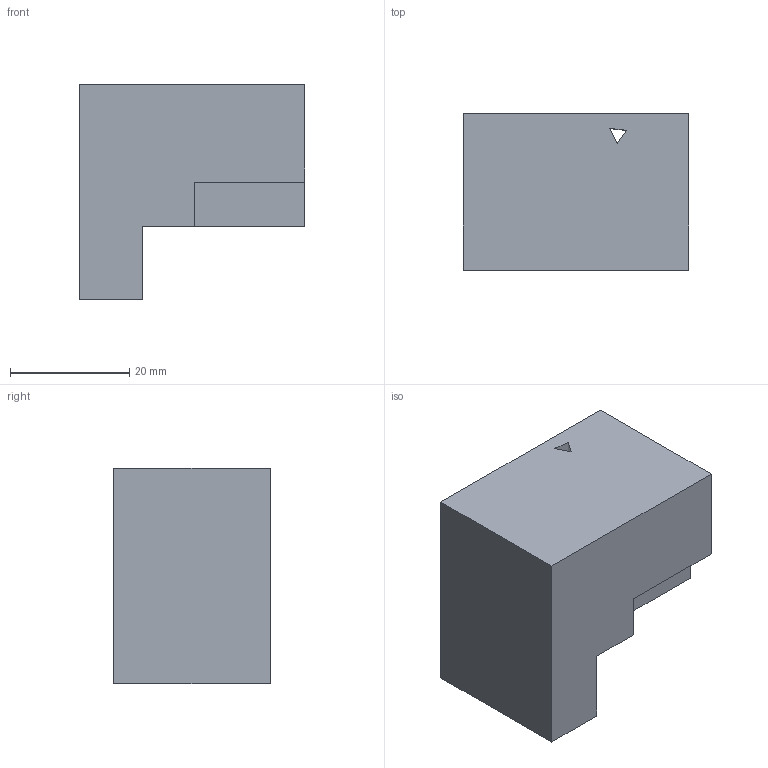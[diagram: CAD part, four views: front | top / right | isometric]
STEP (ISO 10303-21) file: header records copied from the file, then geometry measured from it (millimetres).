
FILE_DESCRIPTION(('Open CASCADE Model'),'2;1');
FILE_NAME('Open CASCADE Shape Model','2021-04-28T16:54:17',('Author'),( 'Open CASCADE'),'Open CASCADE STEP processor 7.4','Open CASCADE 7.4' ,'Unknown');
FILE_SCHEMA(('AUTOMOTIVE_DESIGN { 1 0 10303 214 1 1 1 1 }'));
Length unit declared in the file: millimetre
Products named in the file (1): Open CASCADE STEP translator 7.4 814
Bounding box: 37.88 x 26.36 x 36.19 mm (x, y, z)
Volume: 26481.8 mm3; surface area: 6258.3 mm2
Topology: 1 solids, 1 shells, 19 faces, 48 edges, 32 vertices
Faces by surface type: plane 17, cylinder 2
Entity records: 1198 total; most frequent: CARTESIAN_POINT 202, DIRECTION 182, LINE 130, VECTOR 130, ORIENTED_EDGE 96, PCURVE 96, DEFINITIONAL_REPRESENTATION 96, EDGE_CURVE 48
